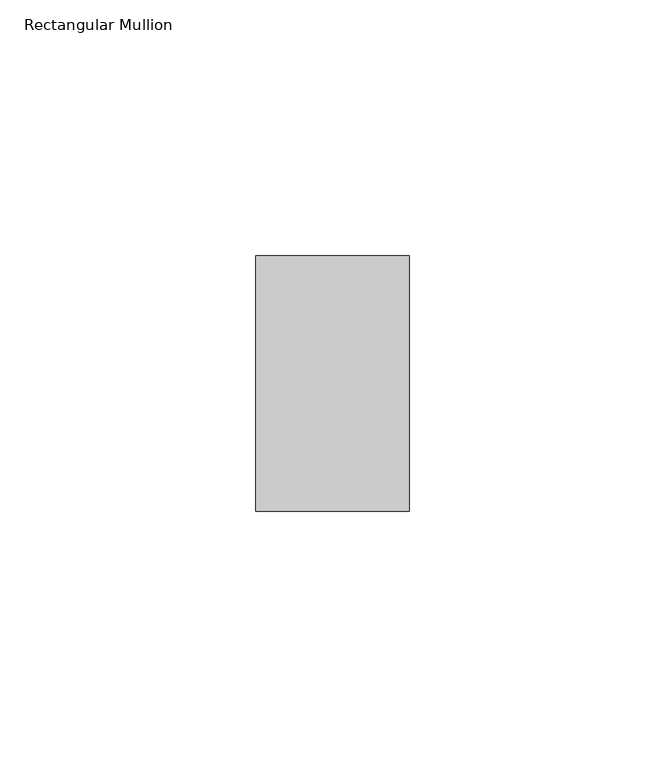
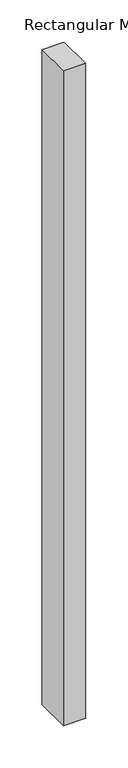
"""IFC4 building model written with IfcOpenShell, lengths in millimetres: member geometry, Rectangular Mullion : ARQ_TV_MULL_50x30mm."""

from ifc_helpers import new_model, si_unit, frame, origin, place, context, project, spatial, polyline, outline, extrude, source, transform, mapped, element, save


def rectangular_mullion_75f94093(model_context):
    return source(origin(), model_context, "Body", "SweptSolid", [
        extrude(outline(polyline([(15.0, 25.0), (15.0, -25.0), (-15.0, -25.0), (-15.0, 25.0), (15.0, 25.0)])), frame((0.0, 0.0, -942.6074646), z_axis=(0.0, 0.0, 1.0), x_axis=(1.0, 0.0, 0.0)), (0.0, 0.0, 1.0), 942.6074646),
    ])


if __name__ == "__main__":
    model = new_model("IFC4")
    model_context = context("Model", 3, world=origin())
    ifc_project = project(units=[si_unit("LENGTHUNIT", "METRE", prefix="MILLI")], contexts=[model_context])
    site = spatial("IfcSite", under=ifc_project)
    building = spatial("IfcBuilding", under=site)
    placement = place(None, origin())
    rectangular_mullion_shape = rectangular_mullion_75f94093(model_context)
    element("IfcMember", 1, ObjectType="Rectangular Mullion : ARQ_TV_MULL_50x30mm", at=placement, inside=building, context=model_context, shape_type="MappedRepresentation", body=[
        mapped(rectangular_mullion_shape, transform((0.0, 0.0, 0.0), x_axis=(1.0, 0.0, 0.0), y_axis=(0.0, 1.0, 0.0), z_axis=(0.0, 0.0, 1.0))),
    ])
    save(model, "model.ifc")
